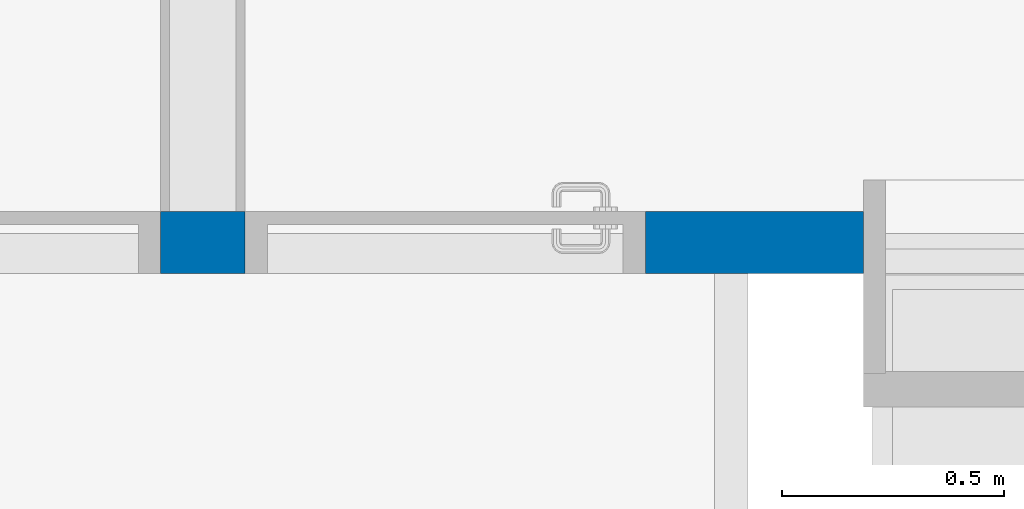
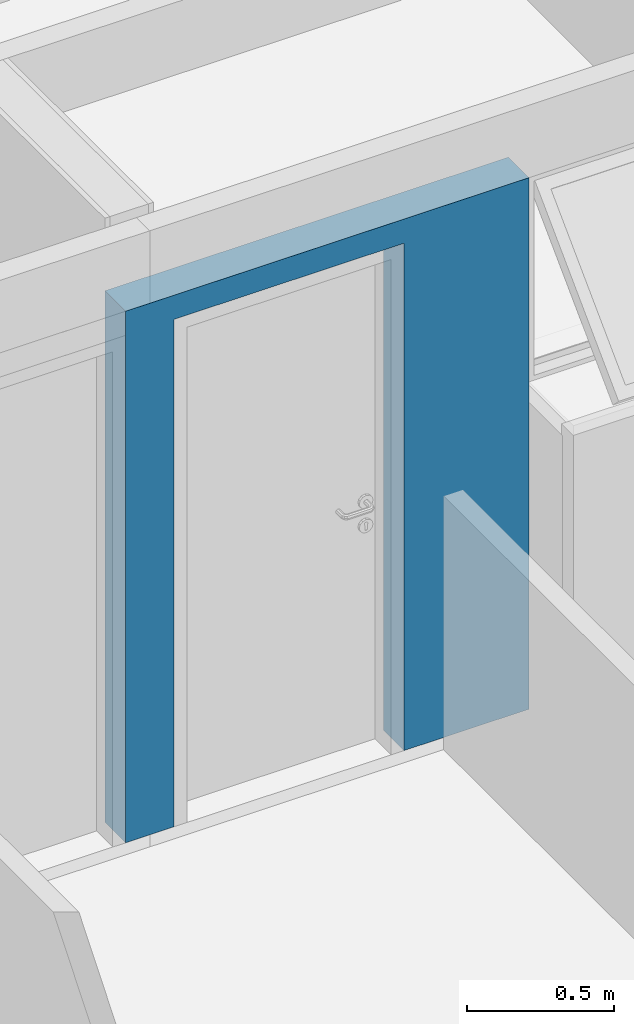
# One storey, part 35 of 40: 1 wall, 1 opening.
"""IFC4 building model written with IfcOpenShell, lengths in millimetres."""

from ifc_helpers import new_model, entity, si_unit, converted_unit, derived_unit, direction, frame, origin_with_axes, origin_2d_with_axis, place, context, subcontext, project, spatial, line, indexed_curve, rectangle, outline, extrude, material, layer, layer_set, layer_usage, type_object, element, save


model = new_model("IFC4")

# Units and contexts
model_context = context("Model", 3, precision=0.01, world=origin_with_axes(), true_north=direction((0.0, 1.0)))
body_context = subcontext(model_context, "Body", "Model", "MODEL_VIEW")
ifc_project = project(units=[si_unit("LENGTHUNIT", "METRE", prefix="MILLI"), si_unit("AREAUNIT", "SQUARE_METRE"), si_unit("VOLUMEUNIT", "CUBIC_METRE"), converted_unit("PLANEANGLEUNIT", "DEGREE", entity("IfcPlaneAngleMeasure", 0.0174532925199), si_unit("PLANEANGLEUNIT", "RADIAN"), dimensions=[0, 0, 0, 0, 0, 0, 0]), converted_unit("TIMEUNIT", "Year", entity("IfcTimeMeasure", 31556926.0), si_unit("TIMEUNIT", "SECOND"), dimensions=[0, 0, 1, 0, 0, 0, 0]), si_unit("MASSUNIT", "GRAM", prefix="KILO"), si_unit("THERMODYNAMICTEMPERATUREUNIT", "DEGREE_CELSIUS"), si_unit("LUMINOUSINTENSITYUNIT", "LUMEN"), si_unit("ENERGYUNIT", "JOULE", prefix="MEGA"), derived_unit("THERMALCONDUCTANCEUNIT", [(si_unit("POWERUNIT", "WATT"), 1), (si_unit("LENGTHUNIT", "METRE"), -1), (si_unit("THERMODYNAMICTEMPERATUREUNIT", "KELVIN"), -1)]), derived_unit("SPECIFICHEATCAPACITYUNIT", [(si_unit("ENERGYUNIT", "JOULE"), 1), (si_unit("MASSUNIT", "GRAM", prefix="KILO"), -1), (si_unit("THERMODYNAMICTEMPERATUREUNIT", "KELVIN"), -1)]), derived_unit("MASSDENSITYUNIT", [(si_unit("MASSUNIT", "GRAM", prefix="KILO"), 1), (si_unit("VOLUMEUNIT", "CUBIC_METRE"), -1)])], contexts=[model_context])

# Site, building, storey
site_placement = place(None, origin_with_axes())
site = spatial("IfcSite", under=ifc_project, at=site_placement, Name="Local", CompositionType="ELEMENT")
building_placement = place(site_placement, origin_with_axes())
building = spatial("IfcBuilding", under=site, at=building_placement, Name="Construção", CompositionType="ELEMENT")
storey_placement = place(building_placement, origin_with_axes())
storey = spatial("IfcBuildingStorey", under=building, at=storey_placement, Name="Primeiro Pavimento", CompositionType="ELEMENT", Elevation=0.0)

# Wall, opening
ifc_material = material(Name="GENÉRICO - VEDAÇÃO EXTERNA")
ifc_layer = layer(ifc_material, 140.0, ventilated="UNKNOWN", Name="GENÉRICO - VEDAÇÃO EXTERNA")
ifc_layer_set = layer_set([ifc_layer], Name="GENÉRICO - VEDAÇÃO EXTERNA 140")
ifc_layer_usage = layer_usage(ifc_layer_set, "AXIS2", "NEGATIVE", 0.0)
wall_type = type_object("IfcWallType", Name="GENÉRICO - VEDAÇÃO EXTERNA 140", PredefinedType="NOTDEFINED")
wall_placement = place(storey_placement, frame((7290.0, 18035.0, 0.0), z_axis=(0.0, 0.0, 1.0), x_axis=(1.0, 0.0, 0.0)))
wall = element("IfcWall", 1, at=wall_placement, inside=storey, type_object=wall_type, material=ifc_layer_usage, Name="APTO4-PAREDE-004", PredefinedType="NOTDEFINED", context=body_context, shape_type="SweptSolid", body=[
    extrude(outline(indexed_curve([(0.0, -140.0), (1580.0, -140.0), (1580.0, 0.0), (0.0, 0.0)], segments=[line(1, 2, 3, 4, 1)])), origin_with_axes(), (0.0, 0.0, 1.0), 2200.0),
])
opening_placement = place(wall_placement, frame((640.0, 0.0, 0.0), z_axis=(0.0, 0.0, 1.0), x_axis=(1.0, 0.0, 0.0)))
element("IfcOpeningElement", 2, at=opening_placement, cuts=wall, Name="APTO4-PORTA-004", context=body_context, shape_type="SweptSolid", body=[
    extrude(rectangle(XDim=900.0, YDim=2100.0, at=origin_2d_with_axis()), frame((0.0, 140.0, 1050.0), z_axis=(0.0, 1.0, 0.0), x_axis=(-1.0, 0.0, 0.0)), (0.0, 0.0, -1.0), 420.0),
])

save(model, "model.ifc")
